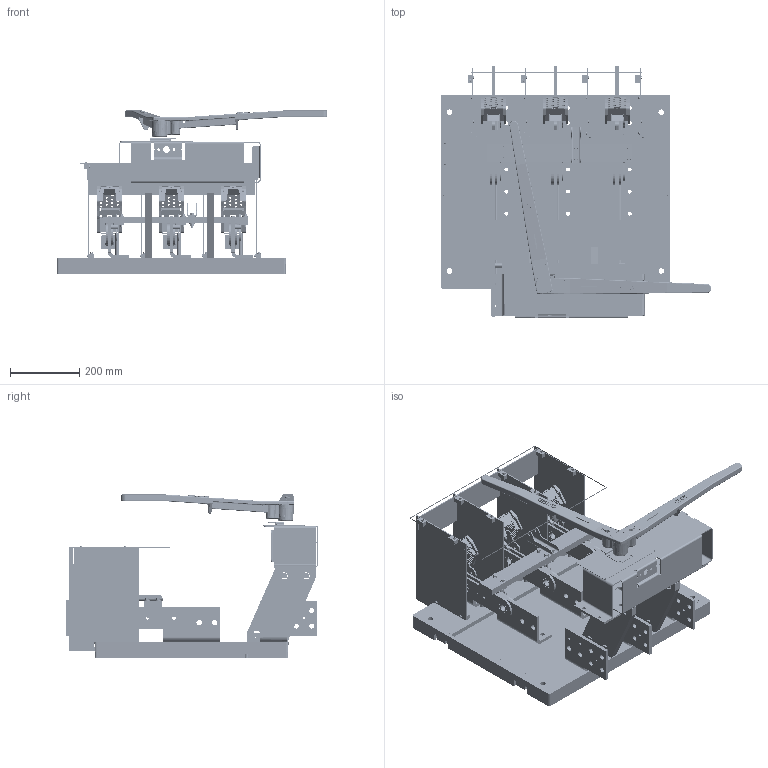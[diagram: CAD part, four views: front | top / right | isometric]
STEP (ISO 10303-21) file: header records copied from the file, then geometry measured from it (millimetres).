
FILE_DESCRIPTION(/* description */ (''),/* implementation_level */ '2;1');
FILE_NAME(/* name */ 'H:\switches\3d-templates\catalog-switches-iges-files\catalog-vl368.stp',/* time_stamp */ '2022-03-22T14:02:01-05:00',/* author */ ('MKingston'),/* organization */ (''),/* preprocessor_version */ 'ST-DEVELOPER v18.1',/* originating_system */ 'Autodesk Inventor 2022',/* authorisation */ '');
FILE_SCHEMA (('AUTOMOTIVE_DESIGN { 1 0 10303 214 3 1 1 }'));
Products named in the file (47): catalog-vl368; 277; 668-D; 668-E; 668-C; 820-bw1; 820-fw3; 223-d-transparent; catalog-368-blade-assy; 67-AL; 67-AR; 67-fc3; 67-gc3; 235-b; 230-a; catalog-arc-chute-assy; 50-QRX; 50-QLX; 56-QJT; 56-QJB; 56-QJS; 57-QJSB; 57-QJST; 363-da; 363-db; 246-a; 221-RP,R3; 255-z; 255-bha; 178-c; 178-b; 255-c; 672-ha; 67-ZBA; 661-C; Bolted Connection; ANSI/ASME B18.2.1 - 1/4-20 UNC - 1.25, HBI; Bolted Connection_1; ANSI/ASME B18.2.1 - 1/4-20 UNC - 1.5, HBI; ANSI B18.22.1 - 1/4 - narrow - Type A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
Assembly tree (140 placements, depth 3):
  catalog-vl368
    277
    668-D  x3
    668-E  x3
    668-C  x3
    820-bw1
    820-fw3
    223-d-transparent
    catalog-368-blade-assy  x3
      67-AL
      67-AR
      67-fc3
      67-gc3
    235-b
    230-a
    catalog-arc-chute-assy  x3
      50-QRX
      50-QLX
      56-QJT
      56-QJB
      56-QJS
      57-QJSB
      57-QJST
      363-da
      363-db
    246-a  x2
    221-RP,R3
    178-b  x8
    255-z
    255-bha  x4
    178-c  x8
    255-c
    672-ha
    67-ZBA  x3
    661-C  x3
    254  x8
    Bolted Connection
      ANSI B18.22.1 - 1/4 - narrow - Type A  x6
      ASME B18.21.1 - 1/4. Carbon Steel, ITLWTB(1)  x6
      ANSI/ASME B18.2.1 - 1/4-20 UNC - 1.25, HBI  x6
    Bolted Connection_1
      ANSI B18.22.1 - 1/4 - narrow - Type A  x4
      ASME B18.21.1 - 1/4. Carbon Steel, ITLWTB(1)  x4
      ANSI/ASME B18.2.1 - 1/4-20 UNC - 1.5, HBI  x2
      ANSI B18.2.2 - 1/4 - 20, HNI  x2
    ANSI B18.6.4 - 8-18 - 0.5, SIHWHTSTBI  x24
    ANSI B18.6.4 - 8-18 - 1, SIHWHTSTBI  x8
    223-d-transparent-red
    223-FE
Bounding box: 779.35 x 726.76 x 469.37 mm (x, y, z)
Volume: 14767227.1 mm3; surface area: 3779231.2 mm2
Topology: 165 solids, 166 shells, 6643 faces, 17041 edges, 11047 vertices
Faces by surface type: plane 3504, cylinder 1866, cone 563, bspline 454, sphere 192, torus 64
Full cylindrical faces by diameter (mm): 1.702 x8, 3.175 x4, 3.454 x4, 3.683 x8, 3.759 x12, 3.962 x5, 4.166 x32, 4.305 x42, 4.496 x24, 4.762 x4, 4.775 x8, 4.801 x8, 4.902 x8, 4.915 x24, 4.978 x5, 5.556 x3, 5.791 x6, 6.35 x48, 6.528 x53, 6.604 x8, 7.137 x10, 7.144 x12, 7.798 x10, 7.938 x21, 8.331 x2, 8.731 x2, 8.839 x32, 9.525 x3, 9.601 x2, 9.804 x2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
Entity records: 102544 total; most frequent: CARTESIAN_POINT 26272, ORIENTED_EDGE 15388, DIRECTION 15299, EDGE_CURVE 7702, AXIS2_PLACEMENT_3D 5371, VERTEX_POINT 4994, LINE 4557, VECTOR 4557
